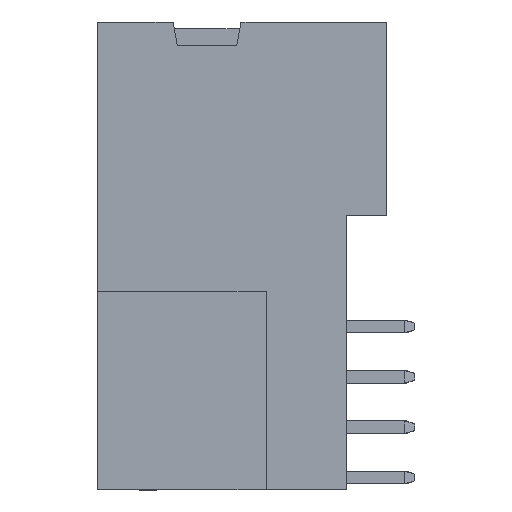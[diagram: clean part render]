
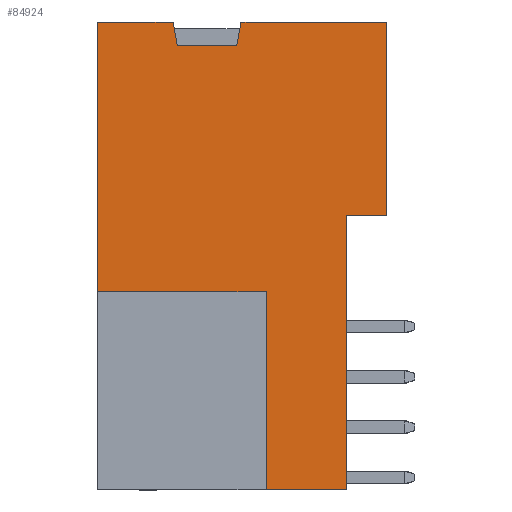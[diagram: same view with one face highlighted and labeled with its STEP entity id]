
A CAD part, left-side view. The second image highlights one B-rep face of the part: STEP entity #84924.
In plain terms, the highlighted planar face has unit normal (-1, 0, 0).
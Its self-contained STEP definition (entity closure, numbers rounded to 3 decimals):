
#914 = VERTEX_POINT ( 'NONE', #1443 ) ;
#946 = VERTEX_POINT ( 'NONE', #1468 ) ;
#980 = VERTEX_POINT ( 'NONE', #1490 ) ;
#1099 = VERTEX_POINT ( 'NONE', #1567 ) ;
#1100 = VERTEX_POINT ( 'NONE', #1568 ) ;
#1179 = VERTEX_POINT ( 'NONE', #1617 ) ;
#1305 = VERTEX_POINT ( 'NONE', #1675 ) ;
#1329 = VERTEX_POINT ( 'NONE', #1685 ) ;
#1443 = CARTESIAN_POINT ( 'NONE',  ( -42.974, 14.528, 11.81 ) ) ;
#1468 = CARTESIAN_POINT ( 'NONE',  ( -42.974, 14.316, 10.61 ) ) ;
#1490 = CARTESIAN_POINT ( 'NONE',  ( -42.974, 9.836, -1.81 ) ) ;
#1567 = CARTESIAN_POINT ( 'NONE',  ( -42.974, 9.836, -11.81 ) ) ;
#1568 = CARTESIAN_POINT ( 'NONE',  ( -42.974, 11.105, 11.81 ) ) ;
#1617 = CARTESIAN_POINT ( 'NONE',  ( -42.974, 11.316, 10.61 ) ) ;
#1675 = CARTESIAN_POINT ( 'NONE',  ( -42.974, 18.346, -1.81 ) ) ;
#1685 = CARTESIAN_POINT ( 'NONE',  ( -42.974, 18.346, 11.81 ) ) ;
#6194 = EDGE_CURVE ( 'NONE', #980, #1099, #51681, .T. ) ;
#6198 = EDGE_CURVE ( 'NONE', #946, #914, #51705, .T. ) ;
#6317 = EDGE_CURVE ( 'NONE', #1179, #946, #52419, .T. ) ;
#6410 = EDGE_CURVE ( 'NONE', #1305, #1329, #59517, .T. ) ;
#6438 = EDGE_CURVE ( 'NONE', #1099, #80827, #59685, .T. ) ;
#6447 = EDGE_CURVE ( 'NONE', #1305, #980, #59739, .T. ) ;
#6569 = EDGE_CURVE ( 'NONE', #914, #1329, #60283, .T. ) ;
#6577 = EDGE_CURVE ( 'NONE', #1100, #1179, #60308, .T. ) ;
#9931 = VERTEX_POINT ( 'NONE', #52407 ) ;
#13411 = ORIENTED_EDGE ( 'NONE', *, *, #6194, .T. ) ;
#13465 = ORIENTED_EDGE ( 'NONE', *, *, #6577, .T. ) ;
#13569 = ORIENTED_EDGE ( 'NONE', *, *, #6569, .T. ) ;
#13881 = ORIENTED_EDGE ( 'NONE', *, *, #6317, .T. ) ;
#14020 = ORIENTED_EDGE ( 'NONE', *, *, #85760, .T. ) ;
#14217 = ORIENTED_EDGE ( 'NONE', *, *, #6410, .F. ) ;
#14366 = ORIENTED_EDGE ( 'NONE', *, *, #85464, .T. ) ;
#14528 = ORIENTED_EDGE ( 'NONE', *, *, #6438, .T. ) ;
#14621 = ORIENTED_EDGE ( 'NONE', *, *, #85602, .T. ) ;
#14928 = ORIENTED_EDGE ( 'NONE', *, *, #85555, .T. ) ;
#36106 = VERTEX_POINT ( 'NONE', #56181 ) ;
#36237 = VERTEX_POINT ( 'NONE', #56261 ) ;
#48509 = VECTOR ( 'NONE', #51687, 1000. ) ;
#48517 = VECTOR ( 'NONE', #51710, 1000. ) ;
#51681 = LINE ( 'NONE', #51685, #48509 ) ;
#51685 = CARTESIAN_POINT ( 'NONE',  ( -42.974, 9.836, -11.81 ) ) ;
#51687 = DIRECTION ( 'NONE',  ( 0., 0., -1. ) ) ;
#51705 = LINE ( 'NONE', #51708, #48517 ) ;
#51708 = CARTESIAN_POINT ( 'NONE',  ( -42.974, 14.316, 10.61 ) ) ;
#51710 = DIRECTION ( 'NONE',  ( 0., 0.174, 0.985 ) ) ;
#52361 = CARTESIAN_POINT ( 'NONE',  ( -42.974, 18.396, 10.61 ) ) ;
#52407 = CARTESIAN_POINT ( 'NONE',  ( -42.974, 3.746, 11.81 ) ) ;
#52419 = LINE ( 'NONE', #52361, #56750 ) ;
#52436 = DIRECTION ( 'NONE',  ( 0., 1., 0. ) ) ;
#52985 = ORIENTED_EDGE ( 'NONE', *, *, #6447, .T. ) ;
#55837 = ORIENTED_EDGE ( 'NONE', *, *, #6198, .T. ) ;
#56181 = CARTESIAN_POINT ( 'NONE',  ( -42.974, 5.776, 2.03 ) ) ;
#56261 = CARTESIAN_POINT ( 'NONE',  ( -42.974, 3.746, 2.03 ) ) ;
#56750 = VECTOR ( 'NONE', #52436, 1000. ) ;
#56927 = CARTESIAN_POINT ( 'NONE',  ( -42.974, 5.776, -11.81 ) ) ;
#56958 = VECTOR ( 'NONE', #59520, 1000. ) ;
#57019 = VECTOR ( 'NONE', #59688, 1000. ) ;
#57038 = VECTOR ( 'NONE', #59742, 1000. ) ;
#57307 = VECTOR ( 'NONE', #60285, 1000. ) ;
#57326 = VECTOR ( 'NONE', #60310, 1000. ) ;
#59517 = LINE ( 'NONE', #59519, #56958 ) ;
#59519 = CARTESIAN_POINT ( 'NONE',  ( -42.974, 18.346, -11.81 ) ) ;
#59520 = DIRECTION ( 'NONE',  ( 0., 0., 1. ) ) ;
#59685 = LINE ( 'NONE', #59687, #57019 ) ;
#59687 = CARTESIAN_POINT ( 'NONE',  ( -42.974, 18.346, -11.81 ) ) ;
#59688 = DIRECTION ( 'NONE',  ( 0., -1., 0. ) ) ;
#59739 = LINE ( 'NONE', #59741, #57038 ) ;
#59741 = CARTESIAN_POINT ( 'NONE',  ( -42.974, 18.346, -1.81 ) ) ;
#59742 = DIRECTION ( 'NONE',  ( 0., -1., 0. ) ) ;
#60283 = LINE ( 'NONE', #60284, #57307 ) ;
#60284 = CARTESIAN_POINT ( 'NONE',  ( -42.974, 18.346, 11.81 ) ) ;
#60285 = DIRECTION ( 'NONE',  ( 0., 1., 0. ) ) ;
#60308 = LINE ( 'NONE', #60309, #57326 ) ;
#60309 = CARTESIAN_POINT ( 'NONE',  ( -42.974, 11.105, 11.81 ) ) ;
#60310 = DIRECTION ( 'NONE',  ( 0., 0.174, -0.985 ) ) ;
#69530 = AXIS2_PLACEMENT_3D ( 'NONE', #72070, #72071, #72072 ) ;
#72046 = PLANE ( 'NONE',  #69530 ) ;
#72060 = FACE_OUTER_BOUND ( 'NONE', #81252, .T. ) ;
#72070 = CARTESIAN_POINT ( 'NONE',  ( -42.974, 18.346, -11.81 ) ) ;
#72071 = DIRECTION ( 'NONE',  ( -1., 0., 0. ) ) ;
#72072 = DIRECTION ( 'NONE',  ( 0., 0., 1. ) ) ;
#75483 = VECTOR ( 'NONE', #76640, 1000. ) ;
#75621 = VECTOR ( 'NONE', #76985, 1000. ) ;
#75697 = VECTOR ( 'NONE', #77156, 1000. ) ;
#75915 = VECTOR ( 'NONE', #77630, 1000. ) ;
#76638 = LINE ( 'NONE', #76639, #75483 ) ;
#76639 = CARTESIAN_POINT ( 'NONE',  ( -42.974, 5.776, -11.81 ) ) ;
#76640 = DIRECTION ( 'NONE',  ( 0., 0., 1. ) ) ;
#76963 = LINE ( 'NONE', #76983, #75621 ) ;
#76983 = CARTESIAN_POINT ( 'NONE',  ( -42.974, 18.346, 2.03 ) ) ;
#76985 = DIRECTION ( 'NONE',  ( 0., -1., 0. ) ) ;
#77154 = LINE ( 'NONE', #77155, #75697 ) ;
#77155 = CARTESIAN_POINT ( 'NONE',  ( -42.974, 18.346, 11.81 ) ) ;
#77156 = DIRECTION ( 'NONE',  ( 0., 1., 0. ) ) ;
#77628 = LINE ( 'NONE', #77629, #75915 ) ;
#77629 = CARTESIAN_POINT ( 'NONE',  ( -42.974, 3.746, -11.81 ) ) ;
#77630 = DIRECTION ( 'NONE',  ( 0., 0., 1. ) ) ;
#80827 = VERTEX_POINT ( 'NONE', #56927 ) ;
#81252 = EDGE_LOOP ( 'NONE', ( #13569, #14217, #52985, #13411, #14528, #14366, #14928, #14020, #14621, #13465, #13881, #55837 ) ) ;
#84924 = ADVANCED_FACE ( 'NONE', ( #72060 ), #72046, .T. ) ;
#85464 = EDGE_CURVE ( 'NONE', #80827, #36106, #76638, .T. ) ;
#85555 = EDGE_CURVE ( 'NONE', #36106, #36237, #76963, .T. ) ;
#85602 = EDGE_CURVE ( 'NONE', #9931, #1100, #77154, .T. ) ;
#85760 = EDGE_CURVE ( 'NONE', #36237, #9931, #77628, .T. ) ;
